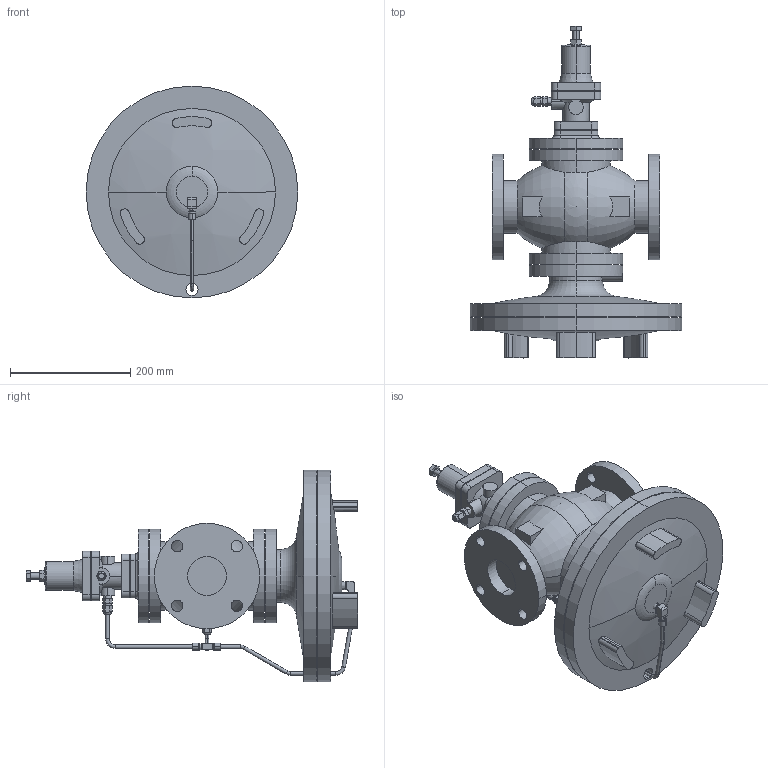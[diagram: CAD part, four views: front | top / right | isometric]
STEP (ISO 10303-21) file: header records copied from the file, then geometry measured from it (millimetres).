
FILE_DESCRIPTION (( 'STEP AP203' ), '1' );
FILE_NAME ('GPR-2000 JIS10K 65A.STEP', '2025-12-05T02:46:28', ( '' ), ( '' ), 'SwSTEP 2.0', 'SolidWorks 2024', '' );
FILE_SCHEMA (( 'CONFIG_CONTROL_DESIGN' ));
Length unit declared in the file: millimetre
Products named in the file (8): GPR-2000 Body Assy EN PN25 65A; GP-2000 Pipe A 65A; Tee; Joint; GPR-2000 JIS10K 65A; Elbow; Pipe B 65A; Pipe C 65A
Assembly tree (9 placements, depth 2):
  GPR-2000 JIS10K 65A
    GPR-2000 Body Assy EN PN25 65A
    Tee
    Joint  x3
    Pipe B 65A
    GP-2000 Pipe A 65A
    Elbow
    Pipe C 65A
Bounding box: 352 x 551.7 x 352 mm (x, y, z)
Volume: 11636831.8 mm3; surface area: 735618.6 mm2
Topology: 9 solids, 9 shells, 424 faces, 1045 edges, 691 vertices
Faces by surface type: plane 190, cylinder 179, cone 25, torus 24, sphere 6
Entity records: 13178 total; most frequent: CARTESIAN_POINT 3182, DIRECTION 2016, ORIENTED_EDGE 1810, EDGE_CURVE 905, AXIS2_PLACEMENT_3D 795, VERTEX_POINT 591, EDGE_LOOP 448, VECTOR 426
